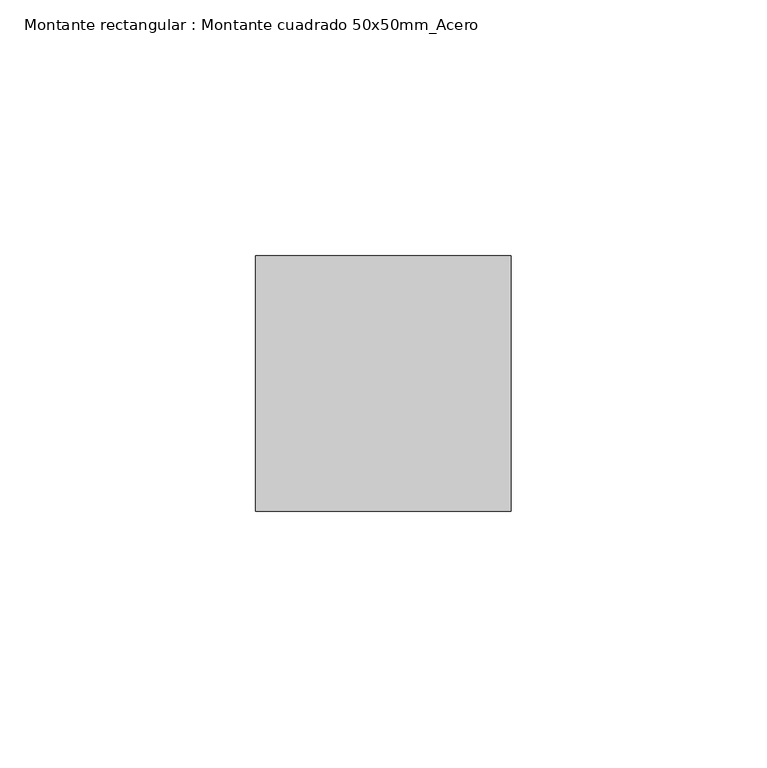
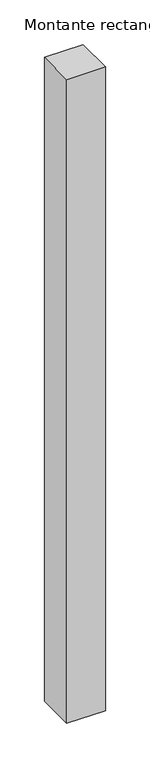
"""IFC4 building model written with IfcOpenShell, lengths in millimetres: member geometry, Montante rectangular : Montante cuadrado 50x50mm_Acero."""

from ifc_helpers import new_model, si_unit, frame, origin, place, context, project, spatial, polyline, outline, extrude, source, transform, mapped, element, save


def montante_rectangular_montante_cuadrado_50x50mm_acero_5bb13b4b(model_context):
    return source(origin(), model_context, "Body", "SweptSolid", [
        extrude(outline(polyline([(0.0, 0.0), (0.0, -50.0), (-50.0, -50.0), (-50.0, 0.0), (0.0, 0.0)])), frame((0.0, 0.0, -880.0), z_axis=(0.0, 0.0, 1.0), x_axis=(1.0, 0.0, 0.0)), (0.0, 0.0, 1.0), 880.0),
    ])


if __name__ == "__main__":
    model = new_model("IFC4")
    model_context = context("Model", 3, world=origin())
    ifc_project = project(units=[si_unit("LENGTHUNIT", "METRE", prefix="MILLI")], contexts=[model_context])
    site = spatial("IfcSite", under=ifc_project)
    building = spatial("IfcBuilding", under=site)
    placement = place(None, origin())
    montante_rectangular_montante_cuadrado_50x50mm_acero_shape = montante_rectangular_montante_cuadrado_50x50mm_acero_5bb13b4b(model_context)
    element("IfcMember", 1, ObjectType="Montante rectangular : Montante cuadrado 50x50mm_Acero", at=placement, inside=building, context=model_context, shape_type="MappedRepresentation", body=[
        mapped(montante_rectangular_montante_cuadrado_50x50mm_acero_shape, transform((0.0, 0.0, 0.0), x_axis=(1.0, 0.0, 0.0), y_axis=(0.0, 1.0, 0.0), z_axis=(0.0, 0.0, 1.0))),
    ])
    save(model, "model.ifc")
